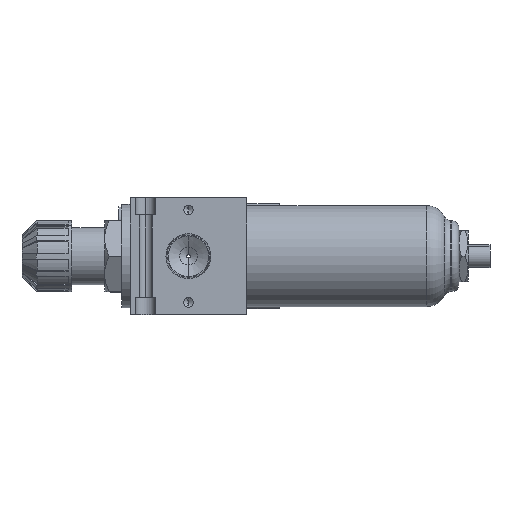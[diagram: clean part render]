
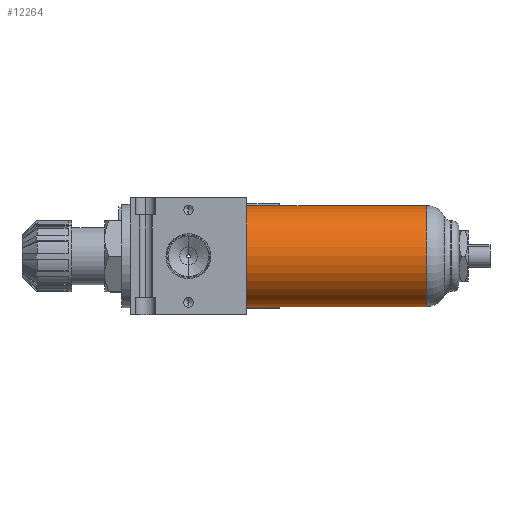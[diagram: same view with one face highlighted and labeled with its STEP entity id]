
A CAD part, left-side view. The second image highlights one B-rep face of the part: STEP entity #12264.
In plain terms, the highlighted cylindrical face has radius 17.75 mm (diameter 35.5 mm), a partial arc.
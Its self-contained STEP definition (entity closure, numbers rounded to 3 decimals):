
#200 = CARTESIAN_POINT ( 'NONE',  ( 0., -63.222, 17.75 ) ) ;
#373 = CARTESIAN_POINT ( 'NONE',  ( 0., -70., -17.75 ) ) ;
#532 = FACE_OUTER_BOUND ( 'NONE', #2849, .T. ) ;
#1266 = LINE ( 'NONE', #373, #14519 ) ;
#1632 = VERTEX_POINT ( 'NONE', #200 ) ;
#1649 = CARTESIAN_POINT ( 'NONE',  ( 0., 0., 17.75 ) ) ;
#1848 = CARTESIAN_POINT ( 'NONE',  ( 0., 0., -17.75 ) ) ;
#2125 = VERTEX_POINT ( 'NONE', #1649 ) ;
#2849 = EDGE_LOOP ( 'NONE', ( #12228, #15924, #25181, #8935 ) ) ;
#3682 = CYLINDRICAL_SURFACE ( 'NONE', #23533, 17.75 ) ;
#4125 = VERTEX_POINT ( 'NONE', #20374 ) ;
#4788 = AXIS2_PLACEMENT_3D ( 'NONE', #25364, #26281, #10196 ) ;
#5852 = VECTOR ( 'NONE', #27671, 1000. ) ;
#7251 = CARTESIAN_POINT ( 'NONE',  ( 0., -70., 0. ) ) ;
#8449 = CARTESIAN_POINT ( 'NONE',  ( 0., -70., 17.75 ) ) ;
#8587 = EDGE_CURVE ( 'NONE', #1632, #2125, #20518, .T. ) ;
#8935 = ORIENTED_EDGE ( 'NONE', *, *, #15514, .F. ) ;
#9874 = AXIS2_PLACEMENT_3D ( 'NONE', #19598, #23632, #19148 ) ;
#10196 = DIRECTION ( 'NONE',  ( 0., 0., 1. ) ) ;
#12228 = ORIENTED_EDGE ( 'NONE', *, *, #26394, .F. ) ;
#12264 = ADVANCED_FACE ( 'NONE', ( #532 ), #3682, .T. ) ;
#14519 = VECTOR ( 'NONE', #16137, 1000. ) ;
#15514 = EDGE_CURVE ( 'NONE', #24654, #2125, #17232, .T. ) ;
#15924 = ORIENTED_EDGE ( 'NONE', *, *, #16017, .T. ) ;
#16017 = EDGE_CURVE ( 'NONE', #4125, #1632, #26478, .T. ) ;
#16137 = DIRECTION ( 'NONE',  ( 0., 1., 0. ) ) ;
#16291 = DIRECTION ( 'NONE',  ( 0., 0., 1. ) ) ;
#17232 = CIRCLE ( 'NONE', #4788, 17.75 ) ;
#19148 = DIRECTION ( 'NONE',  ( 0., 0., -1. ) ) ;
#19598 = CARTESIAN_POINT ( 'NONE',  ( 0., -63.222, 0. ) ) ;
#20374 = CARTESIAN_POINT ( 'NONE',  ( 0., -63.222, -17.75 ) ) ;
#20518 = LINE ( 'NONE', #8449, #5852 ) ;
#23533 = AXIS2_PLACEMENT_3D ( 'NONE', #7251, #23824, #16291 ) ;
#23632 = DIRECTION ( 'NONE',  ( 0., 1., 0. ) ) ;
#23824 = DIRECTION ( 'NONE',  ( 0., 1., 0. ) ) ;
#24654 = VERTEX_POINT ( 'NONE', #1848 ) ;
#25181 = ORIENTED_EDGE ( 'NONE', *, *, #8587, .T. ) ;
#25364 = CARTESIAN_POINT ( 'NONE',  ( 0., 0., 0. ) ) ;
#26281 = DIRECTION ( 'NONE',  ( 0., 1., 0. ) ) ;
#26394 = EDGE_CURVE ( 'NONE', #4125, #24654, #1266, .T. ) ;
#26478 = CIRCLE ( 'NONE', #9874, 17.75 ) ;
#27671 = DIRECTION ( 'NONE',  ( 0., 1., 0. ) ) ;
